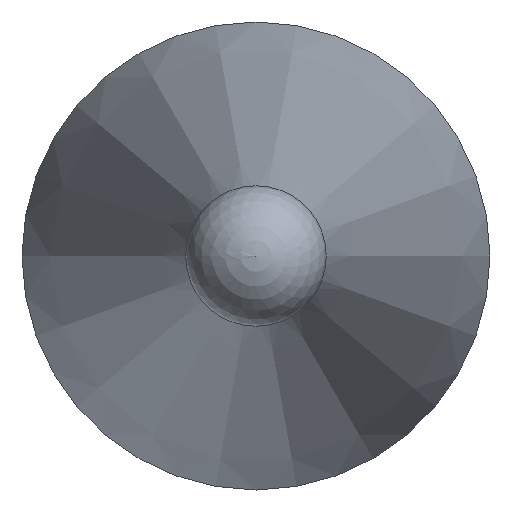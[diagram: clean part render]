
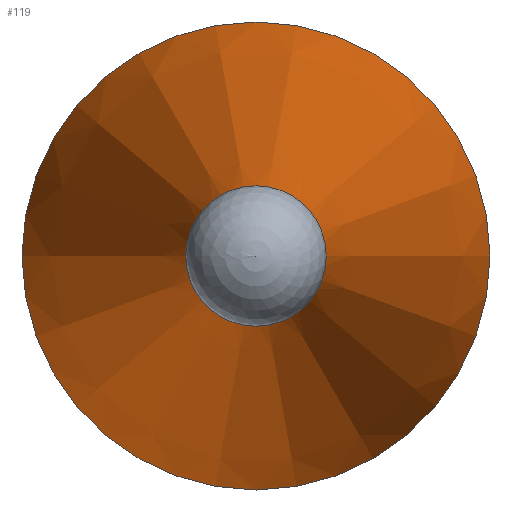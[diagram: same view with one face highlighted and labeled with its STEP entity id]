
A CAD part, left-side view. The second image highlights one B-rep face of the part: STEP entity #119.
In plain terms, the highlighted conical face has half-angle 11 degrees and reference radius 2 mm.
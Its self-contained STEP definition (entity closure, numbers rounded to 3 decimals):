
#93=CONICAL_SURFACE('',#191,2.,11.);
#106=FACE_BOUND('',#137,.T.);
#107=FACE_BOUND('',#138,.T.);
#119=ADVANCED_FACE('',(#106,#107),#93,.T.);
#137=EDGE_LOOP('',(#151));
#138=EDGE_LOOP('',(#152));
#151=ORIENTED_EDGE('',*,*,#168,.F.);
#152=ORIENTED_EDGE('',*,*,#169,.T.);
#161=VERTEX_POINT('',#244);
#162=VERTEX_POINT('',#247);
#168=EDGE_CURVE('',#161,#161,#175,.T.);
#169=EDGE_CURVE('',#162,#162,#176,.T.);
#175=CIRCLE('',#188,0.57);
#176=CIRCLE('',#190,2.);
#188=AXIS2_PLACEMENT_3D('',#243,#215,#216);
#190=AXIS2_PLACEMENT_3D('',#246,#219,#220);
#191=AXIS2_PLACEMENT_3D('',#248,#221,#222);
#215=DIRECTION('',(-1.,0.,0.));
#216=DIRECTION('',(0.,-1.,0.));
#219=DIRECTION('',(-1.,0.,0.));
#220=DIRECTION('',(0.,-1.,0.));
#221=DIRECTION('',(1.,0.,0.));
#222=DIRECTION('',(0.,1.,0.));
#243=CARTESIAN_POINT('',(7883.276,6110.222,0.));
#244=CARTESIAN_POINT('',(7883.276,6109.652,0.));
#246=CARTESIAN_POINT('',(7890.632,6110.222,0.));
#247=CARTESIAN_POINT('',(7890.632,6108.222,0.));
#248=CARTESIAN_POINT('',(7890.632,6110.222,0.));
